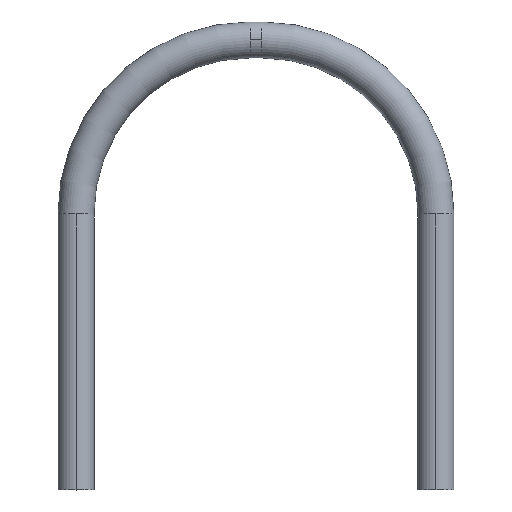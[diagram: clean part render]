
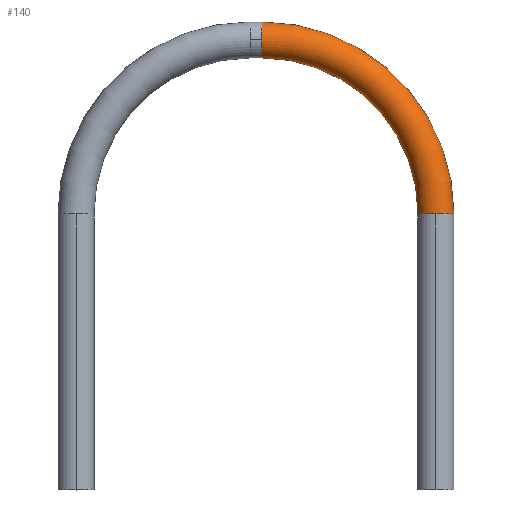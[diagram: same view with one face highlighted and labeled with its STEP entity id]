
A CAD part, top view. The second image highlights one B-rep face of the part: STEP entity #140.
In plain terms, the highlighted toroidal (fillet/blend) face has major radius 72.5 mm and minor radius 7.5 mm.
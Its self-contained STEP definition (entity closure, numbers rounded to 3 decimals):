
#19 = DIRECTION ( 'NONE',  ( 1., 0., 0. ) ) ;
#20 = CIRCLE ( 'NONE', #448, 7.5 ) ;
#21 = CARTESIAN_POINT ( 'NONE',  ( -72.5, 115., 0. ) ) ;
#23 = AXIS2_PLACEMENT_3D ( 'NONE', #801, #302, #677 ) ;
#37 = DIRECTION ( 'NONE',  ( 1., 0., 0. ) ) ;
#49 = FACE_OUTER_BOUND ( 'NONE', #165, .T. ) ;
#64 = EDGE_CURVE ( 'NONE', #670, #199, #73, .T. ) ;
#67 = CARTESIAN_POINT ( 'NONE',  ( -72.5, 115., 0. ) ) ;
#73 = CIRCLE ( 'NONE', #432, 7.5 ) ;
#84 = CIRCLE ( 'NONE', #356, 7.5 ) ;
#104 = CARTESIAN_POINT ( 'NONE',  ( -72.5, 180., 0. ) ) ;
#127 = VERTEX_POINT ( 'NONE', #555 ) ;
#140 = ADVANCED_FACE ( 'NONE', ( #49 ), #741, .T. ) ;
#165 = EDGE_LOOP ( 'NONE', ( #546, #314, #431, #736, #702, #383 ) ) ;
#166 = CARTESIAN_POINT ( 'NONE',  ( -7.5, 115., 0. ) ) ;
#176 = AXIS2_PLACEMENT_3D ( 'NONE', #21, #354, #37 ) ;
#197 = EDGE_CURVE ( 'NONE', #127, #629, #20, .T. ) ;
#199 = VERTEX_POINT ( 'NONE', #104 ) ;
#215 = EDGE_CURVE ( 'NONE', #629, #199, #656, .T. ) ;
#217 = EDGE_CURVE ( 'NONE', #534, #755, #486, .T. ) ;
#226 = EDGE_CURVE ( 'NONE', #534, #127, #253, .T. ) ;
#233 = EDGE_CURVE ( 'NONE', #755, #670, #84, .T. ) ;
#253 = CIRCLE ( 'NONE', #23, 7.5 ) ;
#302 = DIRECTION ( 'NONE',  ( 0., -1., 0. ) ) ;
#314 = ORIENTED_EDGE ( 'NONE', *, *, #217, .T. ) ;
#354 = DIRECTION ( 'NONE',  ( 0., 0., 1. ) ) ;
#356 = AXIS2_PLACEMENT_3D ( 'NONE', #708, #19, #476 ) ;
#377 = DIRECTION ( 'NONE',  ( 1., 0., 0. ) ) ;
#383 = ORIENTED_EDGE ( 'NONE', *, *, #197, .F. ) ;
#412 = DIRECTION ( 'NONE',  ( 0., 0., 1. ) ) ;
#431 = ORIENTED_EDGE ( 'NONE', *, *, #233, .T. ) ;
#432 = AXIS2_PLACEMENT_3D ( 'NONE', #600, #630, #668 ) ;
#433 = CARTESIAN_POINT ( 'NONE',  ( 0., 115., 0. ) ) ;
#435 = AXIS2_PLACEMENT_3D ( 'NONE', #590, #412, #655 ) ;
#448 = AXIS2_PLACEMENT_3D ( 'NONE', #433, #542, #538 ) ;
#474 = CARTESIAN_POINT ( 'NONE',  ( 7.5, 115., 0. ) ) ;
#476 = DIRECTION ( 'NONE',  ( 0., 1., 0. ) ) ;
#486 = CIRCLE ( 'NONE', #435, 80. ) ;
#534 = VERTEX_POINT ( 'NONE', #474 ) ;
#538 = DIRECTION ( 'NONE',  ( 1., 0., 0. ) ) ;
#542 = DIRECTION ( 'NONE',  ( 0., -1., 0. ) ) ;
#546 = ORIENTED_EDGE ( 'NONE', *, *, #226, .F. ) ;
#555 = CARTESIAN_POINT ( 'NONE',  ( 0., 115., 7.5 ) ) ;
#574 = CARTESIAN_POINT ( 'NONE',  ( -72.5, 195., 0. ) ) ;
#590 = CARTESIAN_POINT ( 'NONE',  ( -72.5, 115., 0. ) ) ;
#600 = CARTESIAN_POINT ( 'NONE',  ( -72.5, 187.5, 0. ) ) ;
#616 = DIRECTION ( 'NONE',  ( 0., 0., 1. ) ) ;
#629 = VERTEX_POINT ( 'NONE', #166 ) ;
#630 = DIRECTION ( 'NONE',  ( 1., 0., 0. ) ) ;
#644 = CARTESIAN_POINT ( 'NONE',  ( -72.5, 187.5, 7.5 ) ) ;
#655 = DIRECTION ( 'NONE',  ( 1., 0., 0. ) ) ;
#656 = CIRCLE ( 'NONE', #176, 65. ) ;
#668 = DIRECTION ( 'NONE',  ( 0., 1., 0. ) ) ;
#670 = VERTEX_POINT ( 'NONE', #644 ) ;
#677 = DIRECTION ( 'NONE',  ( 1., 0., 0. ) ) ;
#702 = ORIENTED_EDGE ( 'NONE', *, *, #215, .F. ) ;
#708 = CARTESIAN_POINT ( 'NONE',  ( -72.5, 187.5, 0. ) ) ;
#736 = ORIENTED_EDGE ( 'NONE', *, *, #64, .T. ) ;
#741 = TOROIDAL_SURFACE ( 'NONE', #784, 72.5, 7.5 ) ;
#755 = VERTEX_POINT ( 'NONE', #574 ) ;
#784 = AXIS2_PLACEMENT_3D ( 'NONE', #67, #616, #377 ) ;
#801 = CARTESIAN_POINT ( 'NONE',  ( 0., 115., 0. ) ) ;
